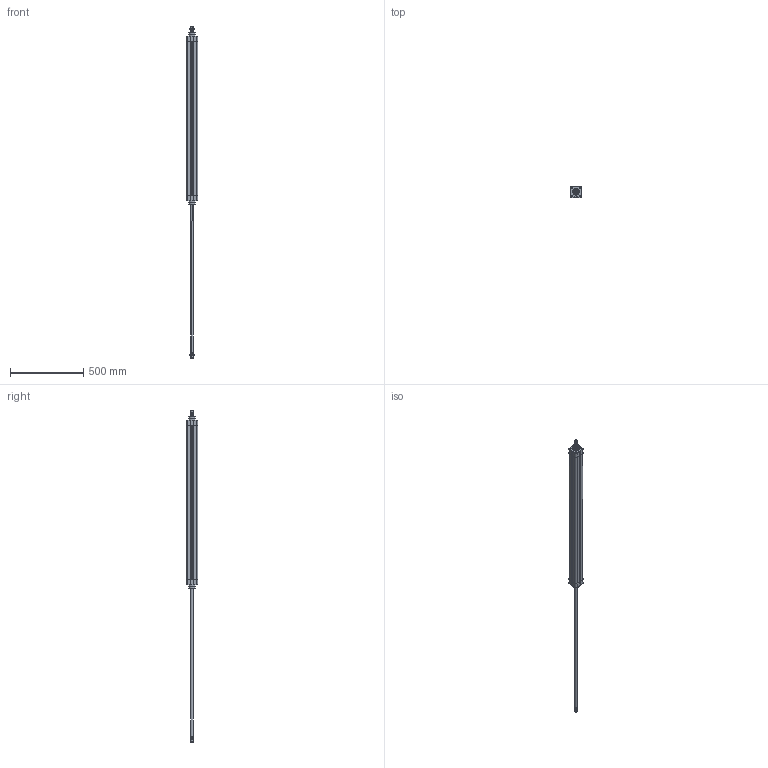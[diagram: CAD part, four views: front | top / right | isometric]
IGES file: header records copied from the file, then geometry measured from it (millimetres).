
Global section: file name: No Iges File Name specified; native system: Autodesk Inventor 2010; preprocessor: AutoDesk Inventor Iges Exporter R2010; author: rivolro1; date: 20090707.105839; units: millimetre
Bounding box: 77.5 x 77.5 x 2259 mm (x, y, z)
Volume: 4038080 mm3; surface area: 817343.9 mm2
Topology: 6 solids, 6 shells, 343 faces, 810 edges, 508 vertices
Faces by surface type: plane 137, bspline 86, cylinder 58, cone 38, revolution 20, torus 4
